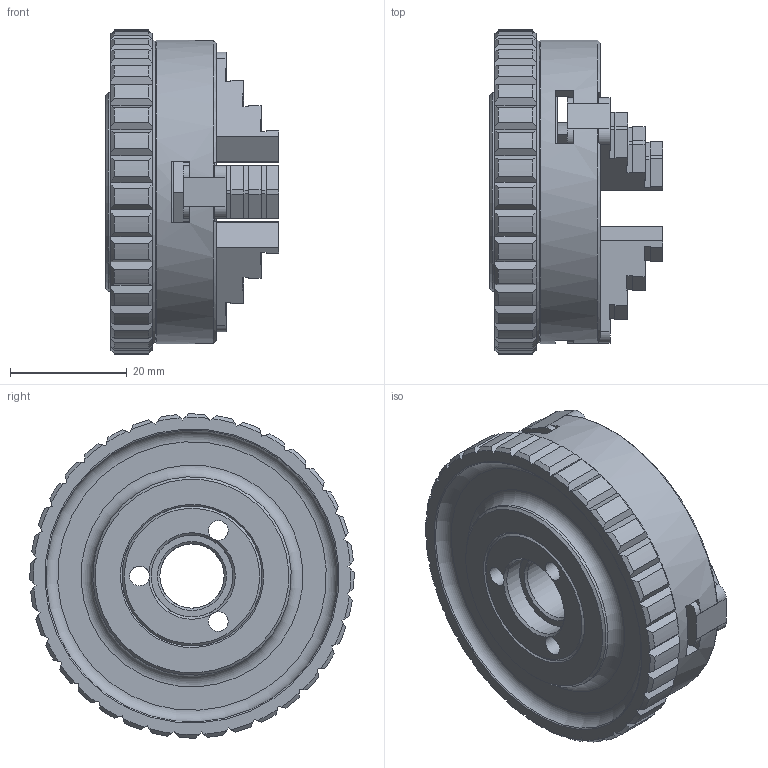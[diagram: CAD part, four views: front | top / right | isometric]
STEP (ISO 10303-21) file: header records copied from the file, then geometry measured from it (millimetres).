
FILE_DESCRIPTION(/* description */ ('Spannring'),/* implementation_level */ '2;1');
FILE_NAME(/* name */ 'D:\03 Projekte\Futtervariationen\(2) Dateien für Webseite\DBF55\DBF55_00-00 Dreibackenfutter DBF55.iam.stp',/* time_stamp */ '2022-01-27T15:16:20+01:00',/* author */ ('D. Pustolla'),/* organization */ (''),/* preprocessor_version */ 'ST-DEVELOPER v15.2',/* originating_system */ 'Autodesk Inventor 2014',/* authorisation */ '');
FILE_SCHEMA (('AUTOMOTIVE_DESIGN { 1 0 10303 214 3 1 1 }'));
Length unit declared in the file: millimetre
Products named in the file (6): DBF55_00-11 Spannring; DBF55_00-12 Futterkörper; DBF55_00-13 Spannbacken 1; DBF55_00-14 Spannbacken 2; DBF55_00-15 Spannbacken 3; DBF55_00-00 Dreibackenfutter DBF55
Bounding box: 29.65 x 55.5 x 55.5 mm (x, y, z)
Volume: 35502.4 mm3; surface area: 19376.6 mm2
Topology: 5 solids, 5 shells, 429 faces, 1242 edges, 820 vertices
Faces by surface type: plane 274, cone 86, cylinder 66, torus 3
Full cylindrical faces by diameter (mm): 3.4 x3, 6 x3, 11 x1, 14 x1, 23.8 x1, 24 x2, 34 x1, 48 x1, 48.5 x1, 52 x1
Entity records: 14277 total; most frequent: CARTESIAN_POINT 2766, ORIENTED_EDGE 2404, DIRECTION 2183, EDGE_CURVE 1202, VERTEX_POINT 809, LINE 795, VECTOR 795, AXIS2_PLACEMENT_3D 694
